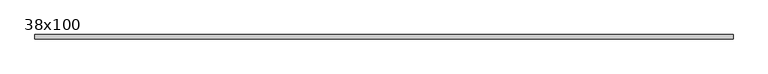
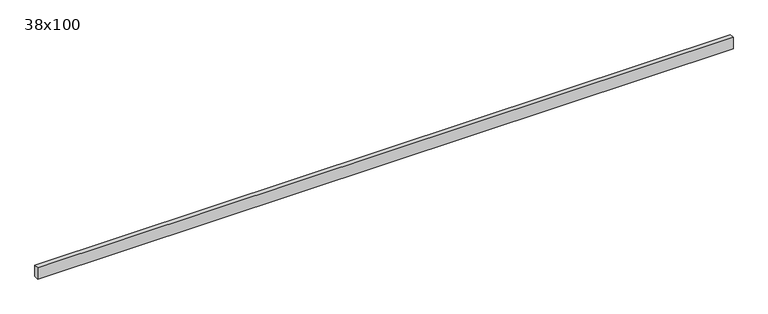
"""IFC4 building model written with IfcOpenShell, lengths in millimetres: beam geometry, Poutre - Bois de construction de dimensions courantes : 38x100."""

from ifc_helpers import new_model, si_unit, frame, origin, place, context, project, spatial, polyline, outline, extrude, source, transform, mapped, element, save


def beam_38x100_2fbf9c7f(model_context):
    return source(origin(), model_context, "Body", "SweptSolid", [
        extrude(outline(polyline([(2938.5, 19.05), (2938.5, -19.05), (-2938.5, -19.05), (-2938.5, 19.05), (2938.5, 19.05)])), frame((0.0, 0.0, -50.0), z_axis=(0.0, 0.0, 1.0), x_axis=(1.0, 0.0, 0.0)), (0.0, 0.0, 1.0), 100.0),
    ])


if __name__ == "__main__":
    model = new_model("IFC4")
    model_context = context("Model", 3, world=origin())
    ifc_project = project(units=[si_unit("LENGTHUNIT", "METRE", prefix="MILLI")], contexts=[model_context])
    site = spatial("IfcSite", under=ifc_project)
    building = spatial("IfcBuilding", under=site)
    placement = place(None, origin())
    beam_38x100_shape = beam_38x100_2fbf9c7f(model_context)
    element("IfcBeam", 1, ObjectType="Poutre - Bois de construction de dimensions courantes : 38x100", at=placement, inside=building, context=model_context, shape_type="MappedRepresentation", body=[
        mapped(beam_38x100_shape, transform((0.0, 0.0, 0.0), x_axis=(1.0, 0.0, 0.0), y_axis=(0.0, 1.0, 0.0), z_axis=(0.0, 0.0, 1.0))),
    ])
    save(model, "model.ifc")
